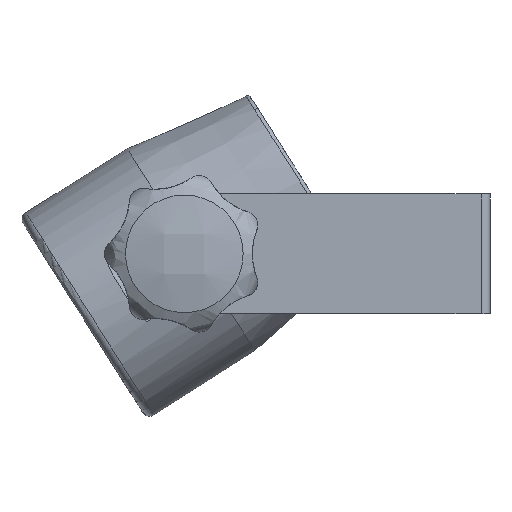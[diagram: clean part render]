
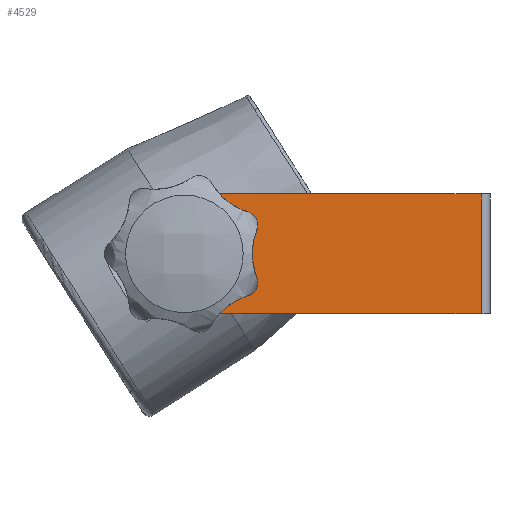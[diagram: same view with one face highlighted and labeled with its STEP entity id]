
A CAD part, left-side view. The second image highlights one B-rep face of the part: STEP entity #4529.
In plain terms, the highlighted planar face has unit normal (-1, 0, 0).
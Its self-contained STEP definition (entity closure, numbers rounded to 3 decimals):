
#18 = EDGE_CURVE ( 'NONE', #4329, #4440, #316, .T. ) ;
#150 = LINE ( 'NONE', #2904, #3127 ) ;
#304 = CARTESIAN_POINT ( 'NONE',  ( -30., -45., 15. ) ) ;
#316 = CIRCLE ( 'NONE', #5385, 15. ) ;
#395 = DIRECTION ( 'NONE',  ( 1., 0., 0. ) ) ;
#444 = DIRECTION ( 'NONE',  ( 1., 0., 0. ) ) ;
#463 = CARTESIAN_POINT ( 'NONE',  ( -30., -44.263, -15. ) ) ;
#527 = ORIENTED_EDGE ( 'NONE', *, *, #2917, .F. ) ;
#618 = CIRCLE ( 'NONE', #4464, 4.1 ) ;
#1076 = CARTESIAN_POINT ( 'NONE',  ( -30., 30., -4.1 ) ) ;
#1118 = EDGE_CURVE ( 'NONE', #4329, #2748, #5022, .T. ) ;
#1296 = LINE ( 'NONE', #304, #4991 ) ;
#1860 = ORIENTED_EDGE ( 'NONE', *, *, #1118, .T. ) ;
#2081 = CARTESIAN_POINT ( 'NONE',  ( -30., 30., 0. ) ) ;
#2577 = EDGE_LOOP ( 'NONE', ( #6821 ) ) ;
#2748 = VERTEX_POINT ( 'NONE', #463 ) ;
#2813 = CARTESIAN_POINT ( 'NONE',  ( -30., -44.263, 15. ) ) ;
#2904 = CARTESIAN_POINT ( 'NONE',  ( -30., -44.263, 15. ) ) ;
#2917 = EDGE_CURVE ( 'NONE', #3224, #2748, #150, .T. ) ;
#3015 = CARTESIAN_POINT ( 'NONE',  ( -30., -45., -15. ) ) ;
#3127 = VECTOR ( 'NONE', #4870, 1000. ) ;
#3149 = DIRECTION ( 'NONE',  ( 0., 0., 1. ) ) ;
#3224 = VERTEX_POINT ( 'NONE', #2813 ) ;
#3234 = VERTEX_POINT ( 'NONE', #1076 ) ;
#3491 = VECTOR ( 'NONE', #6613, 1000. ) ;
#3759 = CARTESIAN_POINT ( 'NONE',  ( -30., 30., 15. ) ) ;
#4018 = PLANE ( 'NONE',  #6775 ) ;
#4092 = FACE_OUTER_BOUND ( 'NONE', #6422, .T. ) ;
#4156 = FACE_BOUND ( 'NONE', #2577, .T. ) ;
#4177 = DIRECTION ( 'NONE',  ( 1., 0., 0. ) ) ;
#4329 = VERTEX_POINT ( 'NONE', #5416 ) ;
#4440 = VERTEX_POINT ( 'NONE', #3759 ) ;
#4464 = AXIS2_PLACEMENT_3D ( 'NONE', #6758, #395, #5743 ) ;
#4529 = ADVANCED_FACE ( 'NONE', ( #4156, #4092 ), #4018, .F. ) ;
#4579 = CARTESIAN_POINT ( 'NONE',  ( -30., -45., 15. ) ) ;
#4662 = ORIENTED_EDGE ( 'NONE', *, *, #18, .F. ) ;
#4870 = DIRECTION ( 'NONE',  ( 0., 0., -1. ) ) ;
#4991 = VECTOR ( 'NONE', #5549, 1000. ) ;
#4992 = EDGE_CURVE ( 'NONE', #4440, #3224, #1296, .T. ) ;
#5022 = LINE ( 'NONE', #3015, #3491 ) ;
#5385 = AXIS2_PLACEMENT_3D ( 'NONE', #2081, #4177, #3149 ) ;
#5416 = CARTESIAN_POINT ( 'NONE',  ( -30., 30., -15. ) ) ;
#5549 = DIRECTION ( 'NONE',  ( 0., -1., 0. ) ) ;
#5672 = ORIENTED_EDGE ( 'NONE', *, *, #4992, .F. ) ;
#5743 = DIRECTION ( 'NONE',  ( 0., 0., -1. ) ) ;
#6422 = EDGE_LOOP ( 'NONE', ( #5672, #4662, #1860, #527 ) ) ;
#6613 = DIRECTION ( 'NONE',  ( 0., -1., 0. ) ) ;
#6701 = DIRECTION ( 'NONE',  ( 0., 0., -1. ) ) ;
#6758 = CARTESIAN_POINT ( 'NONE',  ( -30., 30., 0. ) ) ;
#6775 = AXIS2_PLACEMENT_3D ( 'NONE', #4579, #444, #6701 ) ;
#6821 = ORIENTED_EDGE ( 'NONE', *, *, #6842, .T. ) ;
#6842 = EDGE_CURVE ( 'NONE', #3234, #3234, #618, .T. ) ;
